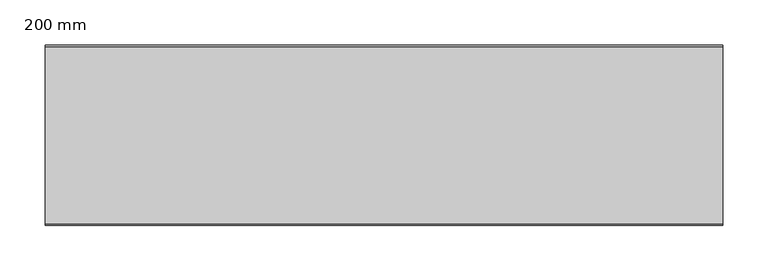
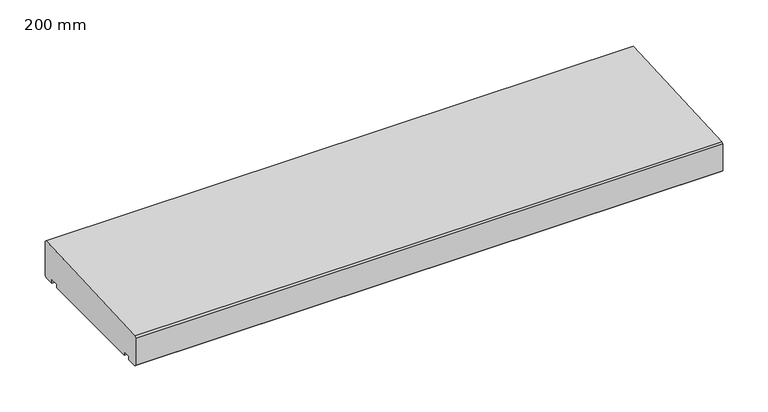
"""IFC4 building model written with IfcOpenShell, lengths in millimetres: proxy geometry, 400_35_NS_afdekker_éénzijdig_afwaterend : 200 mm."""

from ifc_helpers import new_model, si_unit, frame, origin, place, context, project, spatial, polyline, outline, extrude, source, transform, mapped, element, save


def proxy_200_mm_1d84855f(model_context):
    return source(origin(), model_context, "Body", "SweptSolid", [
        extrude(outline(polyline([(200.0, 2.0), (198.0, 0.0), (185.0, 0.0), (185.0, 5.0), (175.0, 5.0), (175.0, 0.0), (25.0, 0.0), (25.0, 5.0), (15.0, 5.0), (15.0, 0.0), (2.0, 0.0), (0.0, 2.0), (0.0, 38.0), (2.0, 40.0), (198.0, 50.0), (200.0, 48.0), (200.0, 2.0)])), frame((-375.0, 0.0, 0.0), z_axis=(1.0, 0.0, 0.0), x_axis=(0.0, 1.0, 0.0)), (0.0, 0.0, 1.0), 750.0),
    ])


if __name__ == "__main__":
    model = new_model("IFC4")
    model_context = context("Model", 3, world=origin())
    ifc_project = project(units=[si_unit("LENGTHUNIT", "METRE", prefix="MILLI")], contexts=[model_context])
    site = spatial("IfcSite", under=ifc_project)
    building = spatial("IfcBuilding", under=site)
    placement = place(None, origin())
    proxy_200_mm_shape = proxy_200_mm_1d84855f(model_context)
    element("IfcBuildingElementProxy", 1, Name="400_35_NS_afdekker_éénzijdig_afwaterend : 200 mm", ObjectType="400_35_NS_afdekker_éénzijdig_afwaterend : 200 mm", at=placement, inside=building, context=model_context, shape_type="MappedRepresentation", body=[
        mapped(proxy_200_mm_shape, transform((0.0, 0.0, 0.0), x_axis=(1.0, 0.0, 0.0), y_axis=(0.0, 1.0, 0.0), z_axis=(0.0, 0.0, 1.0))),
    ])
    save(model, "model.ifc")
